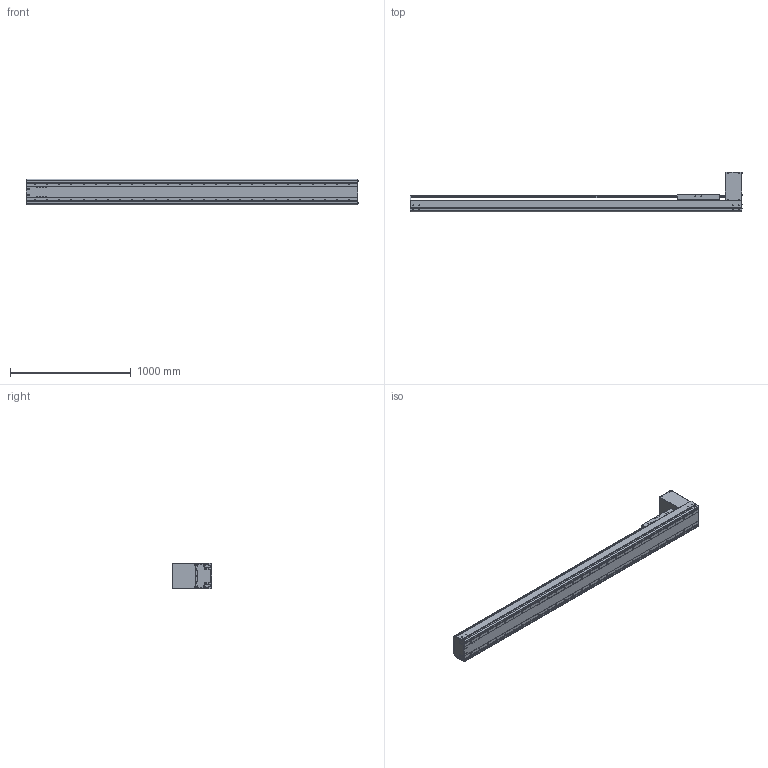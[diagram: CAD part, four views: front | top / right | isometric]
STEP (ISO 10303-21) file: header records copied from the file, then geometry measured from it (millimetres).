
FILE_DESCRIPTION((''),'2;1');
FILE_NAME('BE60J-BT-L19N-M5_IGS_PRT','2017-06-18T',(' '),(''),'PRO/ENGINEER BY PARAMETRIC TECHNOLOGY CORPORATION, 2015030','PRO/ENGINEER BY PARAMETRIC TECHNOLOGY CORPORATION, 2015030','');
FILE_SCHEMA(('CONFIG_CONTROL_DESIGN'));
Products named in the file (1): BE60J-BT-L19N-M5_IGS_PRT
Bounding box: 2754.4 x 327.5 x 214 mm (x, y, z)
Volume: 21392719.1 mm3; surface area: 5941662.7 mm2
Topology: 2 solids, 339 shells, 2460 faces, 6996 edges, 4693 vertices
Faces by surface type: cylinder 1228, plane 868, cone 268, sphere 48, torus 48
Entity records: 82527 total; most frequent: CARTESIAN_POINT 19206, DIRECTION 13217, ORIENTED_EDGE 12380, EDGE_CURVE 6768, AXIS2_PLACEMENT_3D 5041, VERTEX_POINT 4660, VECTOR 3135, LINE 3135
